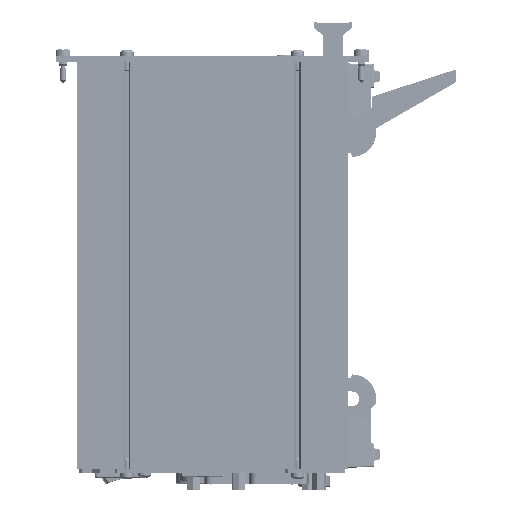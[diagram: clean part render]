
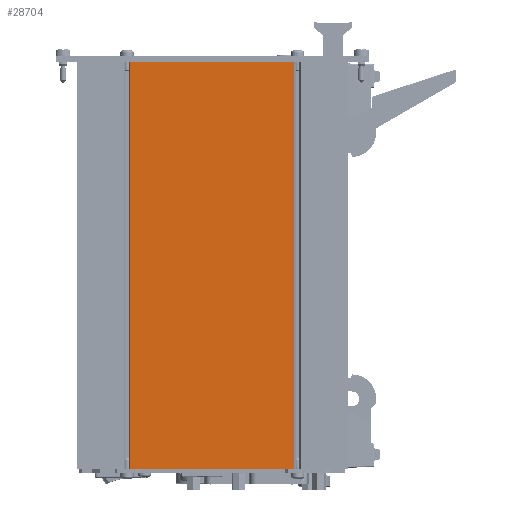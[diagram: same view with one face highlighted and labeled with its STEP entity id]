
A CAD part, left-side view. The second image highlights one B-rep face of the part: STEP entity #28704.
In plain terms, the highlighted planar face has unit normal (-1, 0, 0).
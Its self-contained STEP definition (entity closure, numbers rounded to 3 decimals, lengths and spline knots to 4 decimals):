
#7820 = CARTESIAN_POINT ( 'NONE',  ( -0.1831, 3.7376, 0. ) ) ;
#10667 = VERTEX_POINT ( 'NONE', #203684 ) ;
#23620 = CARTESIAN_POINT ( 'NONE',  ( -0.1831, 3.7376, -8.9331 ) ) ;
#23862 = ORIENTED_EDGE ( 'NONE', *, *, #444014, .T. ) ;
#28704 = ADVANCED_FACE ( 'NONE', ( #149444 ), #275782, .F. ) ;
#39754 = ORIENTED_EDGE ( 'NONE', *, *, #133726, .F. ) ;
#41768 = VERTEX_POINT ( 'NONE', #438747 ) ;
#47494 = LINE ( 'NONE', #427024, #440532 ) ;
#62763 = VERTEX_POINT ( 'NONE', #7820 ) ;
#65488 = CARTESIAN_POINT ( 'NONE',  ( -0.1831, 2.4094, -8.9331 ) ) ;
#87031 = ORIENTED_EDGE ( 'NONE', *, *, #232057, .T. ) ;
#87413 = VECTOR ( 'NONE', #141601, 39.3701 ) ;
#105726 = DIRECTION ( 'NONE',  ( 0., -1., 0. ) ) ;
#113987 = LINE ( 'NONE', #23620, #445746 ) ;
#129490 = VERTEX_POINT ( 'NONE', #169261 ) ;
#130186 = ORIENTED_EDGE ( 'NONE', *, *, #377300, .F. ) ;
#133726 = EDGE_CURVE ( 'NONE', #62763, #164468, #47494, .T. ) ;
#136720 = DIRECTION ( 'NONE',  ( 1., 0., 0. ) ) ;
#141601 = DIRECTION ( 'NONE',  ( 0., -1., 0. ) ) ;
#147294 = DIRECTION ( 'NONE',  ( 0., -1., 0. ) ) ;
#149444 = FACE_OUTER_BOUND ( 'NONE', #371866, .T. ) ;
#152716 = VECTOR ( 'NONE', #164133, 39.3701 ) ;
#164133 = DIRECTION ( 'NONE',  ( 0., 0., -1. ) ) ;
#164468 = VERTEX_POINT ( 'NONE', #452229 ) ;
#165889 = DIRECTION ( 'NONE',  ( 0., 0., 1. ) ) ;
#168113 = CARTESIAN_POINT ( 'NONE',  ( -0.1831, 1.235, -6.575 ) ) ;
#169261 = CARTESIAN_POINT ( 'NONE',  ( -0.1831, 3.5839, -6.575 ) ) ;
#183958 = LINE ( 'NONE', #244862, #443766 ) ;
#195252 = DIRECTION ( 'NONE',  ( 0., -1., 0. ) ) ;
#203684 = CARTESIAN_POINT ( 'NONE',  ( -0.1831, 1.0812, -6.575 ) ) ;
#220628 = EDGE_CURVE ( 'NONE', #129490, #327594, #183958, .T. ) ;
#232057 = EDGE_CURVE ( 'NONE', #327594, #10667, #359485, .T. ) ;
#244862 = CARTESIAN_POINT ( 'NONE',  ( -0.1831, 2.4094, -6.575 ) ) ;
#267589 = CARTESIAN_POINT ( 'NONE',  ( -0.1831, 1.0812, -8.9331 ) ) ;
#275514 = ORIENTED_EDGE ( 'NONE', *, *, #288065, .F. ) ;
#275782 = PLANE ( 'NONE',  #345881 ) ;
#288065 = EDGE_CURVE ( 'NONE', #164468, #10667, #329489, .T. ) ;
#327594 = VERTEX_POINT ( 'NONE', #168113 ) ;
#329489 = LINE ( 'NONE', #267589, #152716 ) ;
#337330 = VECTOR ( 'NONE', #195252, 39.3701 ) ;
#345881 = AXIS2_PLACEMENT_3D ( 'NONE', #65488, #136720, #383857 ) ;
#347268 = LINE ( 'NONE', #354714, #87413 ) ;
#354714 = CARTESIAN_POINT ( 'NONE',  ( -0.1831, 2.4094, -6.575 ) ) ;
#359485 = LINE ( 'NONE', #408375, #337330 ) ;
#371866 = EDGE_LOOP ( 'NONE', ( #130186, #23862, #421217, #87031, #275514, #39754 ) ) ;
#377300 = EDGE_CURVE ( 'NONE', #41768, #62763, #113987, .T. ) ;
#383857 = DIRECTION ( 'NONE',  ( 0., 1., 0. ) ) ;
#408375 = CARTESIAN_POINT ( 'NONE',  ( -0.1831, 2.4094, -6.575 ) ) ;
#421217 = ORIENTED_EDGE ( 'NONE', *, *, #220628, .T. ) ;
#427024 = CARTESIAN_POINT ( 'NONE',  ( -0.1831, 2.4094, 0. ) ) ;
#438747 = CARTESIAN_POINT ( 'NONE',  ( -0.1831, 3.7376, -6.575 ) ) ;
#440532 = VECTOR ( 'NONE', #147294, 39.3701 ) ;
#443766 = VECTOR ( 'NONE', #105726, 39.3701 ) ;
#444014 = EDGE_CURVE ( 'NONE', #41768, #129490, #347268, .T. ) ;
#445746 = VECTOR ( 'NONE', #165889, 39.3701 ) ;
#452229 = CARTESIAN_POINT ( 'NONE',  ( -0.1831, 1.0812, 0. ) ) ;
